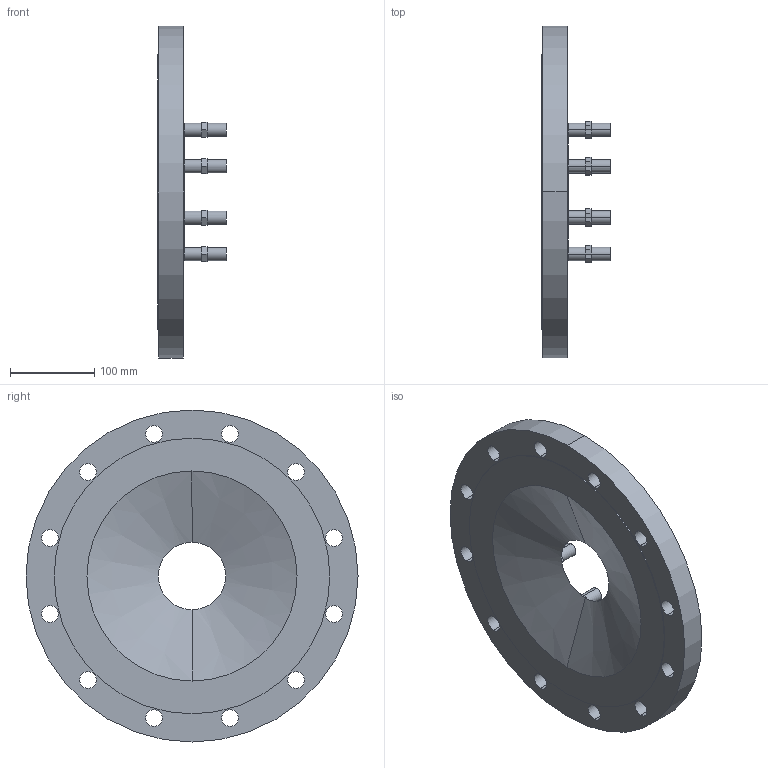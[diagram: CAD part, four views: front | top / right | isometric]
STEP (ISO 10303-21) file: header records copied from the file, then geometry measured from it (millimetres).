
FILE_DESCRIPTION(('STEP AP214'),'1');
FILE_NAME('S:/EK/USER/CAT6/3DHomepage_27-04-2012/VDI-Rohrsysteme_und_Stahlrohre/0802_(8110)/0802_PN10_DN250_DN80.STP','2013-01-25T08:12:39',(' '),(' '),'Spatial InterOp 3D',' ',' ');
FILE_SCHEMA(('automotive_design'));
Length unit declared in the file: millimetre
Products named in the file (18): 3D-Objekt
Bounding box: 81 x 395 x 395 mm (x, y, z)
Volume: 2918014.5 mm3; surface area: 380429.2 mm2
Topology: 18 solids, 18 shells, 135 faces, 294 edges, 196 vertices
Faces by surface type: plane 85, cylinder 48, cone 2
Entity records: 5260 total; most frequent: DIRECTION 700, CARTESIAN_POINT 643, ORIENTED_EDGE 588, EDGE_CURVE 294, AXIS2_PLACEMENT_3D 253, VERTEX_POINT 196, LINE 194, VECTOR 194
